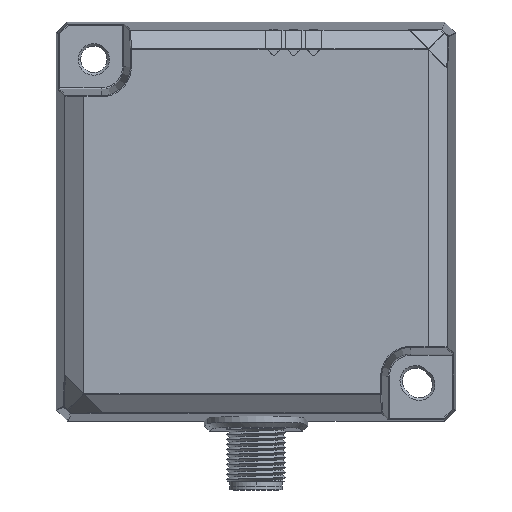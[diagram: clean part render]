
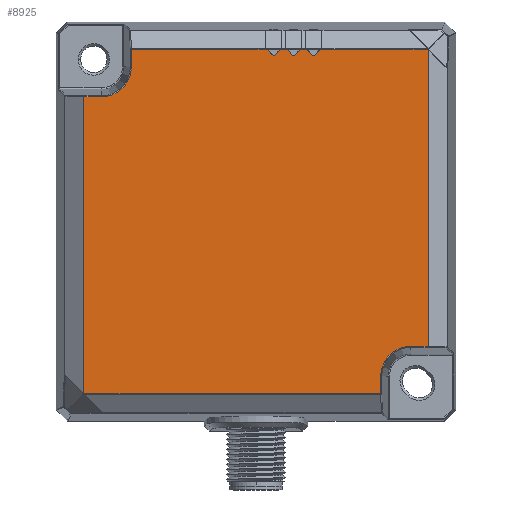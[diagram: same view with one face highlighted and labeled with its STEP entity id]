
A CAD part, front view. The second image highlights one B-rep face of the part: STEP entity #8925.
In plain terms, the highlighted planar face has unit normal (0, -1, 0).
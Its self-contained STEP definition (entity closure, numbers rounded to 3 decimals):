
#20=DIRECTION('',(-1.,0.,0.));
#21=VECTOR('',#20,1.317);
#22=CARTESIAN_POINT('',(10.215,-20.,34.493));
#23=LINE('',#22,#21);
#832=DIRECTION('',(-1.,0.,0.));
#833=VECTOR('',#832,1.317);
#834=CARTESIAN_POINT('',(6.215,-20.,34.493));
#835=LINE('',#834,#833);
#887=CARTESIAN_POINT('',(-31.,-20.,31.));
#888=DIRECTION('',(0.,-1.,0.));
#889=DIRECTION('',(0.,0.,-1.));
#890=AXIS2_PLACEMENT_3D('',#887,#888,#889);
#892=DIRECTION('',(0.702,0.,-0.713));
#893=VECTOR('',#892,1.71);
#894=CARTESIAN_POINT('',(2.215,-20.,34.493));
#895=LINE('',#894,#893);
#896=CARTESIAN_POINT('',(3.415,-20.,33.275));
#897=CARTESIAN_POINT('',(3.441,-20.,33.248));
#898=CARTESIAN_POINT('',(3.504,-20.,33.214));
#899=CARTESIAN_POINT('',(3.612,-20.,33.215));
#900=CARTESIAN_POINT('',(3.672,-20.,33.249));
#901=CARTESIAN_POINT('',(3.699,-20.,33.276));
#903=DIRECTION('',(0.702,0.,0.713));
#904=VECTOR('',#903,1.709);
#905=CARTESIAN_POINT('',(3.699,-20.,33.276));
#906=LINE('',#905,#904);
#907=DIRECTION('',(0.702,0.,-0.713));
#908=VECTOR('',#907,1.71);
#909=CARTESIAN_POINT('',(6.215,-20.,34.493));
#910=LINE('',#909,#908);
#911=CARTESIAN_POINT('',(7.415,-20.,33.275));
#912=CARTESIAN_POINT('',(7.441,-20.,33.248));
#913=CARTESIAN_POINT('',(7.504,-20.,33.214));
#914=CARTESIAN_POINT('',(7.612,-20.,33.215));
#915=CARTESIAN_POINT('',(7.672,-20.,33.249));
#916=CARTESIAN_POINT('',(7.699,-20.,33.276));
#918=DIRECTION('',(0.702,0.,0.713));
#919=VECTOR('',#918,1.709);
#920=CARTESIAN_POINT('',(7.699,-20.,33.276));
#921=LINE('',#920,#919);
#922=DIRECTION('',(0.702,0.,-0.713));
#923=VECTOR('',#922,1.71);
#924=CARTESIAN_POINT('',(10.215,-20.,34.493));
#925=LINE('',#924,#923);
#926=CARTESIAN_POINT('',(11.415,-20.,33.275));
#927=CARTESIAN_POINT('',(11.441,-20.,33.248));
#928=CARTESIAN_POINT('',(11.504,-20.,33.214));
#929=CARTESIAN_POINT('',(11.612,-20.,33.215));
#930=CARTESIAN_POINT('',(11.672,-20.,33.249));
#931=CARTESIAN_POINT('',(11.699,-20.,33.276));
#933=DIRECTION('',(0.702,0.,0.713));
#934=VECTOR('',#933,1.709);
#935=CARTESIAN_POINT('',(11.699,-20.,33.276));
#936=LINE('',#935,#934);
#937=CARTESIAN_POINT('',(31.,-20.,-31.));
#938=DIRECTION('',(0.,-1.,0.));
#939=DIRECTION('',(0.,0.,1.));
#940=AXIS2_PLACEMENT_3D('',#937,#938,#939);
#946=DIRECTION('',(0.,0.,1.));
#947=VECTOR('',#946,3.493);
#948=CARTESIAN_POINT('',(24.999,-20.,-34.493));
#949=LINE('',#948,#947);
#1008=DIRECTION('',(1.,0.,0.));
#1009=VECTOR('',#1008,3.493);
#1010=CARTESIAN_POINT('',(31.,-20.,-24.999));
#1011=LINE('',#1010,#1009);
#1310=DIRECTION('',(0.,0.,1.));
#1311=VECTOR('',#1310,59.492);
#1312=CARTESIAN_POINT('',(34.493,-20.,-24.999));
#1313=LINE('',#1312,#1311);
#1644=DIRECTION('',(-1.,0.,0.));
#1645=VECTOR('',#1644,3.493);
#1646=CARTESIAN_POINT('',(-31.,-20.,24.999));
#1647=LINE('',#1646,#1645);
#1667=DIRECTION('',(0.,0.,-1.));
#1668=VECTOR('',#1667,59.492);
#1669=CARTESIAN_POINT('',(-34.493,-20.,24.999));
#1670=LINE('',#1669,#1668);
#2713=DIRECTION('',(-1.,0.,0.));
#2714=VECTOR('',#2713,21.596);
#2715=CARTESIAN_POINT('',(34.493,-20.,34.493));
#2716=LINE('',#2715,#2714);
#5819=DIRECTION('',(1.,0.,0.));
#5820=VECTOR('',#5819,59.492);
#5821=CARTESIAN_POINT('',(-34.493,-20.,-34.493));
#5822=LINE('',#5821,#5820);
#5823=DIRECTION('',(0.,0.,-1.));
#5824=VECTOR('',#5823,3.493);
#5825=CARTESIAN_POINT('',(-24.999,-20.,34.493));
#5826=LINE('',#5825,#5824);
#5857=DIRECTION('',(-1.,0.,0.));
#5858=VECTOR('',#5857,27.214);
#5859=CARTESIAN_POINT('',(2.215,-20.,34.493));
#5860=LINE('',#5859,#5858);
#5966=CARTESIAN_POINT('',(24.999,-20.,-34.493));
#5967=CARTESIAN_POINT('',(24.999,-20.,-31.));
#5968=VERTEX_POINT('',#5966);
#5969=VERTEX_POINT('',#5967);
#5970=CARTESIAN_POINT('',(-34.493,-20.,-34.493));
#5971=VERTEX_POINT('',#5970);
#5972=CARTESIAN_POINT('',(-34.493,-20.,24.999));
#5973=VERTEX_POINT('',#5972);
#5974=CARTESIAN_POINT('',(-31.,-20.,24.999));
#5975=VERTEX_POINT('',#5974);
#5976=CARTESIAN_POINT('',(-24.999,-20.,31.));
#5977=VERTEX_POINT('',#5976);
#5978=CARTESIAN_POINT('',(-24.999,-20.,34.493));
#5979=VERTEX_POINT('',#5978);
#5980=CARTESIAN_POINT('',(2.215,-20.,34.493));
#5981=VERTEX_POINT('',#5980);
#5982=CARTESIAN_POINT('',(3.415,-20.,33.275));
#5983=VERTEX_POINT('',#5982);
#5984=VERTEX_POINT('',#901);
#5985=CARTESIAN_POINT('',(4.898,-20.,34.493));
#5986=VERTEX_POINT('',#5985);
#5987=CARTESIAN_POINT('',(6.215,-20.,34.493));
#5988=VERTEX_POINT('',#5987);
#5989=CARTESIAN_POINT('',(7.415,-20.,33.275));
#5990=VERTEX_POINT('',#5989);
#5991=VERTEX_POINT('',#916);
#5992=CARTESIAN_POINT('',(8.898,-20.,34.493));
#5993=VERTEX_POINT('',#5992);
#5994=CARTESIAN_POINT('',(10.215,-20.,34.493));
#5995=VERTEX_POINT('',#5994);
#5996=CARTESIAN_POINT('',(11.415,-20.,33.275));
#5997=VERTEX_POINT('',#5996);
#5998=VERTEX_POINT('',#931);
#5999=CARTESIAN_POINT('',(12.898,-20.,34.493));
#6000=VERTEX_POINT('',#5999);
#6001=CARTESIAN_POINT('',(34.493,-20.,34.493));
#6002=VERTEX_POINT('',#6001);
#6003=CARTESIAN_POINT('',(34.493,-20.,-24.999));
#6004=VERTEX_POINT('',#6003);
#6005=CARTESIAN_POINT('',(31.,-20.,-24.999));
#6006=VERTEX_POINT('',#6005);
#8880=CARTESIAN_POINT('',(0.,-20.,0.));
#8881=DIRECTION('',(0.,1.,0.));
#8882=DIRECTION('',(1.,0.,0.));
#8883=AXIS2_PLACEMENT_3D('',#8880,#8881,#8882);
#8884=PLANE('',#8883);
#8886=ORIENTED_EDGE('',*,*,#8885,.F.);
#8888=ORIENTED_EDGE('',*,*,#8887,.F.);
#8890=ORIENTED_EDGE('',*,*,#8889,.F.);
#8892=ORIENTED_EDGE('',*,*,#8891,.F.);
#8894=ORIENTED_EDGE('',*,*,#8893,.T.);
#8896=ORIENTED_EDGE('',*,*,#8895,.F.);
#8898=ORIENTED_EDGE('',*,*,#8897,.F.);
#8900=ORIENTED_EDGE('',*,*,#8899,.T.);
#8902=ORIENTED_EDGE('',*,*,#8901,.T.);
#8904=ORIENTED_EDGE('',*,*,#8903,.T.);
#8905=ORIENTED_EDGE('',*,*,#8815,.F.);
#8906=ORIENTED_EDGE('',*,*,#8833,.T.);
#8907=ORIENTED_EDGE('',*,*,#8859,.T.);
#8908=ORIENTED_EDGE('',*,*,#8871,.T.);
#8909=ORIENTED_EDGE('',*,*,#7375,.F.);
#8910=ORIENTED_EDGE('',*,*,#7394,.T.);
#8912=ORIENTED_EDGE('',*,*,#8911,.T.);
#8914=ORIENTED_EDGE('',*,*,#8913,.T.);
#8916=ORIENTED_EDGE('',*,*,#8915,.F.);
#8918=ORIENTED_EDGE('',*,*,#8917,.F.);
#8920=ORIENTED_EDGE('',*,*,#8919,.F.);
#8922=ORIENTED_EDGE('',*,*,#8921,.T.);
#8923=EDGE_LOOP('',(#8886,#8888,#8890,#8892,#8894,#8896,#8898,#8900,#8902,#8904,
#8905,#8906,#8907,#8908,#8909,#8910,#8912,#8914,#8916,#8918,#8920,#8922));
#8924=FACE_OUTER_BOUND('',#8923,.F.);
#8925=ADVANCED_FACE('',(#8924),#8884,.F.);
#891=CIRCLE('',#890,6.001);
#902=B_SPLINE_CURVE_WITH_KNOTS('',3,(#896,#897,#898,#899,#900,#901),
.UNSPECIFIED.,.F.,.F.,(4,1,1,4),(0.,0.333,0.667,1.),
.UNSPECIFIED.);
#917=B_SPLINE_CURVE_WITH_KNOTS('',3,(#911,#912,#913,#914,#915,#916),
.UNSPECIFIED.,.F.,.F.,(4,1,1,4),(0.,0.333,0.667,1.),
.UNSPECIFIED.);
#932=B_SPLINE_CURVE_WITH_KNOTS('',3,(#926,#927,#928,#929,#930,#931),
.UNSPECIFIED.,.F.,.F.,(4,1,1,4),(0.,0.333,0.667,1.),
.UNSPECIFIED.);
#941=CIRCLE('',#940,6.001);
#7375=EDGE_CURVE('',#5995,#5993,#23,.T.);
#7394=EDGE_CURVE('',#5995,#5997,#925,.T.);
#8815=EDGE_CURVE('',#5988,#5986,#835,.T.);
#8833=EDGE_CURVE('',#5988,#5990,#910,.T.);
#8859=EDGE_CURVE('',#5990,#5991,#917,.T.);
#8871=EDGE_CURVE('',#5991,#5993,#921,.T.);
#8885=EDGE_CURVE('',#5968,#5969,#949,.T.);
#8887=EDGE_CURVE('',#5971,#5968,#5822,.T.);
#8889=EDGE_CURVE('',#5973,#5971,#1670,.T.);
#8891=EDGE_CURVE('',#5975,#5973,#1647,.T.);
#8893=EDGE_CURVE('',#5975,#5977,#891,.T.);
#8895=EDGE_CURVE('',#5979,#5977,#5826,.T.);
#8897=EDGE_CURVE('',#5981,#5979,#5860,.T.);
#8899=EDGE_CURVE('',#5981,#5983,#895,.T.);
#8901=EDGE_CURVE('',#5983,#5984,#902,.T.);
#8903=EDGE_CURVE('',#5984,#5986,#906,.T.);
#8911=EDGE_CURVE('',#5997,#5998,#932,.T.);
#8913=EDGE_CURVE('',#5998,#6000,#936,.T.);
#8915=EDGE_CURVE('',#6002,#6000,#2716,.T.);
#8917=EDGE_CURVE('',#6004,#6002,#1313,.T.);
#8919=EDGE_CURVE('',#6006,#6004,#1011,.T.);
#8921=EDGE_CURVE('',#6006,#5969,#941,.T.);
